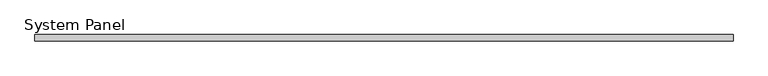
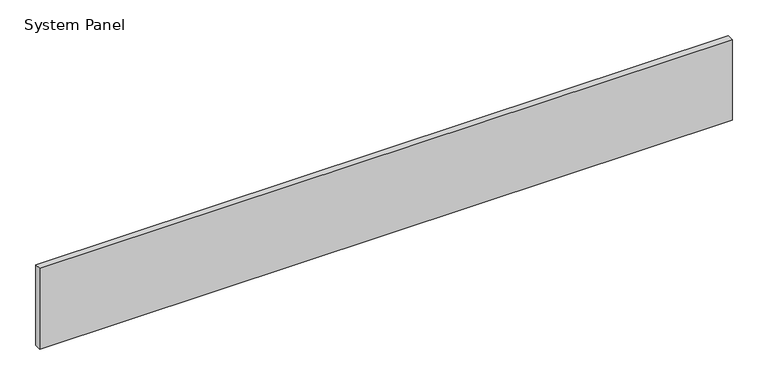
"""IFC4 building model written with IfcOpenShell, lengths in millimetres: plate geometry, System Panel : VACÍO."""

from ifc_helpers import new_model, si_unit, origin, origin_with_axes, place, context, project, spatial, polyline, outline, extrude, source, transform, mapped, element, save


def system_panel_b2f76736(model_context):
    return source(origin(), model_context, "Body", "SweptSolid", [
        extrude(outline(polyline([(556.1350437, -5.0), (-556.1350437, -5.0), (-556.1350437, 5.0), (556.1350437, 5.0), (556.1350437, -5.0)])), origin_with_axes(), (0.0, 0.0, 1.0), 137.033564),
    ])


if __name__ == "__main__":
    model = new_model("IFC4")
    model_context = context("Model", 3, world=origin())
    ifc_project = project(units=[si_unit("LENGTHUNIT", "METRE", prefix="MILLI")], contexts=[model_context])
    site = spatial("IfcSite", under=ifc_project)
    building = spatial("IfcBuilding", under=site)
    placement = place(None, origin())
    system_panel_shape = system_panel_b2f76736(model_context)
    element("IfcPlate", 1, ObjectType="System Panel : VACÍO", at=placement, inside=building, context=model_context, shape_type="MappedRepresentation", body=[
        mapped(system_panel_shape, transform((0.0, 0.0, 0.0), x_axis=(1.0, 0.0, 0.0), y_axis=(0.0, 1.0, 0.0), z_axis=(0.0, 0.0, 1.0))),
    ])
    save(model, "model.ifc")
